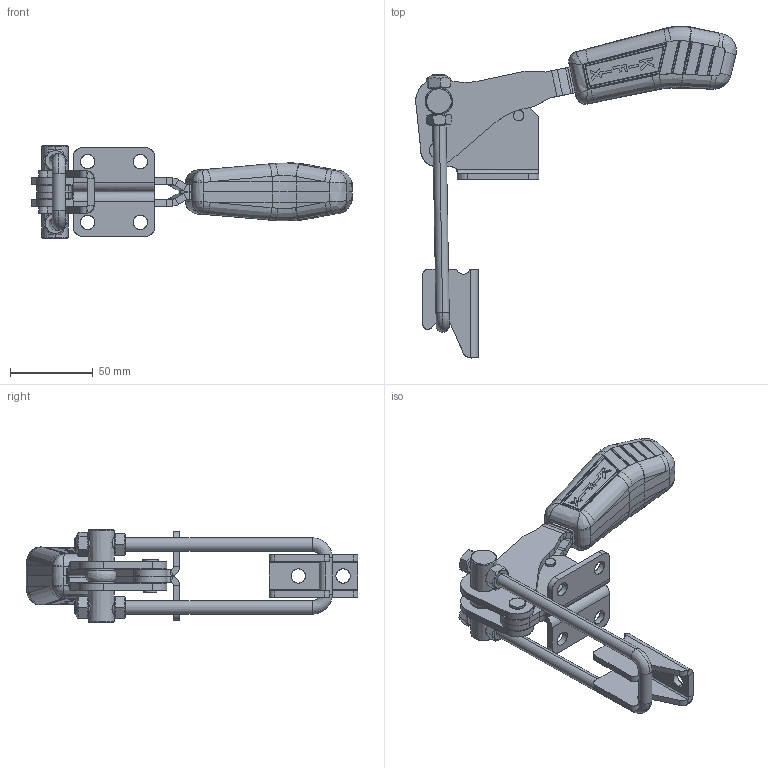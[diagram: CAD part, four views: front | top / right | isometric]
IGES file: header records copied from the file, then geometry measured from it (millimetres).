
Start section: SolidWorks IGES file using analytic representation for surfaces
Global section: file name: C:\Projetos\Grampos\KF-443\KF-443 D\KF-443 D.IGS; native system: SolidWorks 2018; preprocessor: SolidWorks 2018; author: Ricardo; date: 180511.143228; units: millimetre
Bounding box: 193.49 x 200.38 x 56.5 mm (x, y, z)
Surface area: 74317 mm2 (no closed solid volume)
Topology: 0 solids, 0 shells, 676 faces, 7629 edges, 7607 vertices
Faces by surface type: bspline 423, revolution 253
